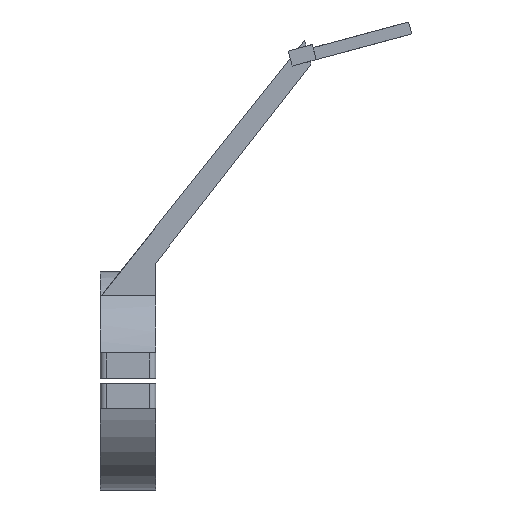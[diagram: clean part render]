
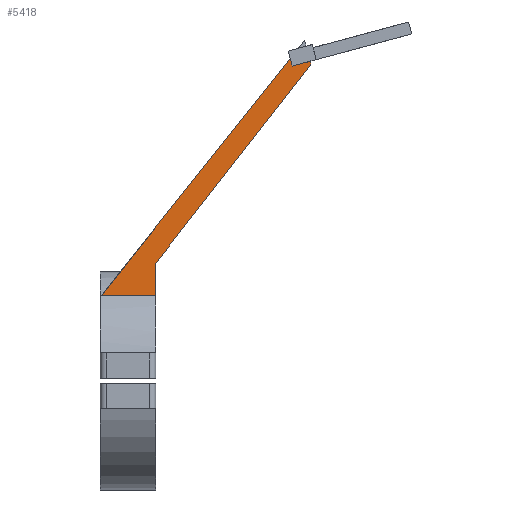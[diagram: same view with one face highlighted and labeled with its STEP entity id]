
A CAD part, front view. The second image highlights one B-rep face of the part: STEP entity #5418.
In plain terms, the highlighted planar face has unit normal (0, -1, 0).
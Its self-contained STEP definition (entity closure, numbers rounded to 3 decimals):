
#55 = CYLINDRICAL_SURFACE('',#56,35.3);
#56 = AXIS2_PLACEMENT_3D('',#57,#58,#59);
#57 = CARTESIAN_POINT('',(-35.,0.,0.));
#58 = DIRECTION('',(-1.,-0.,-0.));
#59 = DIRECTION('',(0.,1.,0.));
#329 = PLANE('',#330);
#330 = AXIS2_PLACEMENT_3D('',#331,#332,#333);
#331 = CARTESIAN_POINT('',(-17.,0.,0.)
  );
#332 = DIRECTION('',(1.,0.,0.));
#333 = DIRECTION('',(-0.,0.,1.));
#476 = VERTEX_POINT('',#477);
#477 = CARTESIAN_POINT('',(-34.518,-22.,27.606));
#495 = PLANE('',#496);
#496 = AXIS2_PLACEMENT_3D('',#497,#498,#499);
#497 = CARTESIAN_POINT('',(31.04,-18.,109.969));
#498 = DIRECTION('',(0.782,0.,-0.623));
#499 = DIRECTION('',(-0.623,0.,-0.782));
#507 = EDGE_CURVE('',#508,#476,#510,.T.);
#508 = VERTEX_POINT('',#509);
#509 = CARTESIAN_POINT('',(-17.,-22.,27.606));
#510 = SURFACE_CURVE('',#511,(#515,#521),.PCURVE_S1.);
#511 = LINE('',#512,#513);
#512 = CARTESIAN_POINT('',(-35.,-22.,27.606));
#513 = VECTOR('',#514,1.);
#514 = DIRECTION('',(-1.,-0.,-0.));
#515 = PCURVE('',#55,#516);
#516 = DEFINITIONAL_REPRESENTATION('',(#517),#520);
#517 = B_SPLINE_CURVE_WITH_KNOTS('',1,(#518,#519),.UNSPECIFIED.,.F.,.F.,
  (2,2),(-18.,0.),.PIECEWISE_BEZIER_KNOTS.);
#518 = CARTESIAN_POINT('',(-2.244,-18.));
#519 = CARTESIAN_POINT('',(-2.244,0.));
#520 = ( GEOMETRIC_REPRESENTATION_CONTEXT(2) 
PARAMETRIC_REPRESENTATION_CONTEXT() REPRESENTATION_CONTEXT('2D SPACE',''
  ) );
#521 = PCURVE('',#522,#527);
#522 = PLANE('',#523);
#523 = AXIS2_PLACEMENT_3D('',#524,#525,#526);
#524 = CARTESIAN_POINT('',(0.213,-22.,65.33));
#525 = DIRECTION('',(-0.,-1.,-0.));
#526 = DIRECTION('',(0.,0.,-1.));
#527 = DEFINITIONAL_REPRESENTATION('',(#528),#531);
#528 = B_SPLINE_CURVE_WITH_KNOTS('',1,(#529,#530),.UNSPECIFIED.,.F.,.F.,
  (2,2),(-18.,0.),.PIECEWISE_BEZIER_KNOTS.);
#529 = CARTESIAN_POINT('',(37.724,-17.213));
#530 = CARTESIAN_POINT('',(37.724,-35.213));
#531 = ( GEOMETRIC_REPRESENTATION_CONTEXT(2) 
PARAMETRIC_REPRESENTATION_CONTEXT() REPRESENTATION_CONTEXT('2D SPACE',''
  ) );
#1688 = PLANE('',#1689);
#1689 = AXIS2_PLACEMENT_3D('',#1690,#1691,#1692);
#1690 = CARTESIAN_POINT('',(46.375,0.,106.831));
#1691 = DIRECTION('',(0.259,0.,-0.966));
#1692 = DIRECTION('',(0.966,0.,0.259));
#1712 = PLANE('',#1713);
#1713 = AXIS2_PLACEMENT_3D('',#1714,#1715,#1716);
#1714 = CARTESIAN_POINT('',(26.021,-20.,105.519));
#1715 = DIRECTION('',(0.966,0.,0.259));
#1716 = DIRECTION('',(0.,1.,0.));
#2064 = VERTEX_POINT('',#2065);
#2065 = CARTESIAN_POINT('',(27.056,-22.,101.655));
#2086 = EDGE_CURVE('',#2087,#2064,#2089,.T.);
#2087 = VERTEX_POINT('',#2088);
#2088 = CARTESIAN_POINT('',(32.852,-22.,103.208));
#2089 = SURFACE_CURVE('',#2090,(#2094,#2100),.PCURVE_S1.);
#2090 = LINE('',#2091,#2092);
#2091 = CARTESIAN_POINT('',(19.652,-22.,99.671));
#2092 = VECTOR('',#2093,1.);
#2093 = DIRECTION('',(-0.966,0.,-0.259));
#2094 = PCURVE('',#1688,#2095);
#2095 = DEFINITIONAL_REPRESENTATION('',(#2096),#2099);
#2096 = B_SPLINE_CURVE_WITH_KNOTS('',1,(#2097,#2098),.UNSPECIFIED.,.F.,
  .F.,(2,2),(-13.933,-7.665),.PIECEWISE_BEZIER_KNOTS.);
#2097 = CARTESIAN_POINT('',(-13.732,22.));
#2098 = CARTESIAN_POINT('',(-20.,22.));
#2099 = ( GEOMETRIC_REPRESENTATION_CONTEXT(2) 
PARAMETRIC_REPRESENTATION_CONTEXT() REPRESENTATION_CONTEXT('2D SPACE',''
  ) );
#2100 = PCURVE('',#522,#2101);
#2101 = DEFINITIONAL_REPRESENTATION('',(#2102),#2105);
#2102 = B_SPLINE_CURVE_WITH_KNOTS('',1,(#2103,#2104),.UNSPECIFIED.,.F.,
  .F.,(2,2),(-13.933,-7.665),.PIECEWISE_BEZIER_KNOTS.);
#2103 = CARTESIAN_POINT('',(-37.947,32.897));
#2104 = CARTESIAN_POINT('',(-36.325,26.843));
#2105 = ( GEOMETRIC_REPRESENTATION_CONTEXT(2) 
PARAMETRIC_REPRESENTATION_CONTEXT() REPRESENTATION_CONTEXT('2D SPACE',''
  ) );
#2122 = PLANE('',#2123);
#2123 = AXIS2_PLACEMENT_3D('',#2124,#2125,#2126);
#2124 = CARTESIAN_POINT('',(33.11,-18.,102.242));
#2125 = DIRECTION('',(-0.966,-0.,-0.259));
#2126 = DIRECTION('',(-0.259,0.,0.966));
#5050 = VERTEX_POINT('',#5051);
#5051 = CARTESIAN_POINT('',(33.11,-22.,102.242));
#5065 = PLANE('',#5066);
#5066 = AXIS2_PLACEMENT_3D('',#5067,#5068,#5069);
#5067 = CARTESIAN_POINT('',(-17.,-18.,38.));
#5068 = DIRECTION('',(-0.788,0.,0.615));
#5069 = DIRECTION('',(0.615,0.,0.788));
#5077 = EDGE_CURVE('',#5050,#2087,#5078,.T.);
#5078 = SURFACE_CURVE('',#5079,(#5083,#5090),.PCURVE_S1.);
#5079 = LINE('',#5080,#5081);
#5080 = CARTESIAN_POINT('',(33.11,-22.,102.242));
#5081 = VECTOR('',#5082,1.);
#5082 = DIRECTION('',(-0.259,0.,0.966));
#5083 = PCURVE('',#2122,#5084);
#5084 = DEFINITIONAL_REPRESENTATION('',(#5085),#5089);
#5085 = LINE('',#5086,#5087);
#5086 = CARTESIAN_POINT('',(0.,-4.));
#5087 = VECTOR('',#5088,1.);
#5088 = DIRECTION('',(1.,0.));
#5089 = ( GEOMETRIC_REPRESENTATION_CONTEXT(2) 
PARAMETRIC_REPRESENTATION_CONTEXT() REPRESENTATION_CONTEXT('2D SPACE',''
  ) );
#5090 = PCURVE('',#522,#5091);
#5091 = DEFINITIONAL_REPRESENTATION('',(#5092),#5096);
#5092 = LINE('',#5093,#5094);
#5093 = CARTESIAN_POINT('',(-36.912,32.897));
#5094 = VECTOR('',#5095,1.);
#5095 = DIRECTION('',(-0.966,-0.259));
#5096 = ( GEOMETRIC_REPRESENTATION_CONTEXT(2) 
PARAMETRIC_REPRESENTATION_CONTEXT() REPRESENTATION_CONTEXT('2D SPACE',''
  ) );
#5105 = VERTEX_POINT('',#5106);
#5106 = CARTESIAN_POINT('',(-17.,-22.,38.));
#5127 = EDGE_CURVE('',#5105,#5050,#5128,.T.);
#5128 = SURFACE_CURVE('',#5129,(#5133,#5140),.PCURVE_S1.);
#5129 = LINE('',#5130,#5131);
#5130 = CARTESIAN_POINT('',(-17.,-22.,38.));
#5131 = VECTOR('',#5132,1.);
#5132 = DIRECTION('',(0.615,0.,0.788));
#5133 = PCURVE('',#5065,#5134);
#5134 = DEFINITIONAL_REPRESENTATION('',(#5135),#5139);
#5135 = LINE('',#5136,#5137);
#5136 = CARTESIAN_POINT('',(0.,-4.));
#5137 = VECTOR('',#5138,1.);
#5138 = DIRECTION('',(1.,0.));
#5139 = ( GEOMETRIC_REPRESENTATION_CONTEXT(2) 
PARAMETRIC_REPRESENTATION_CONTEXT() REPRESENTATION_CONTEXT('2D SPACE',''
  ) );
#5140 = PCURVE('',#522,#5141);
#5141 = DEFINITIONAL_REPRESENTATION('',(#5142),#5146);
#5142 = LINE('',#5143,#5144);
#5143 = CARTESIAN_POINT('',(27.33,-17.213));
#5144 = VECTOR('',#5145,1.);
#5145 = DIRECTION('',(-0.788,0.615));
#5146 = ( GEOMETRIC_REPRESENTATION_CONTEXT(2) 
PARAMETRIC_REPRESENTATION_CONTEXT() REPRESENTATION_CONTEXT('2D SPACE',''
  ) );
#5182 = EDGE_CURVE('',#5183,#2064,#5185,.T.);
#5183 = VERTEX_POINT('',#5184);
#5184 = CARTESIAN_POINT('',(26.393,-22.,104.131));
#5185 = SURFACE_CURVE('',#5186,(#5190,#5196),.PCURVE_S1.);
#5186 = LINE('',#5187,#5188);
#5187 = CARTESIAN_POINT('',(30.18,-22.,89.996));
#5188 = VECTOR('',#5189,1.);
#5189 = DIRECTION('',(0.259,0.,-0.966));
#5190 = PCURVE('',#1712,#5191);
#5191 = DEFINITIONAL_REPRESENTATION('',(#5192),#5195);
#5192 = B_SPLINE_CURVE_WITH_KNOTS('',1,(#5193,#5194),.UNSPECIFIED.,.F.,
  .F.,(2,2),(-17.07,-12.07),.PIECEWISE_BEZIER_KNOTS.);
#5193 = CARTESIAN_POINT('',(-2.,1.));
#5194 = CARTESIAN_POINT('',(-2.,-4.));
#5195 = ( GEOMETRIC_REPRESENTATION_CONTEXT(2) 
PARAMETRIC_REPRESENTATION_CONTEXT() REPRESENTATION_CONTEXT('2D SPACE',''
  ) );
#5196 = PCURVE('',#522,#5197);
#5197 = DEFINITIONAL_REPRESENTATION('',(#5198),#5201);
#5198 = B_SPLINE_CURVE_WITH_KNOTS('',1,(#5199,#5200),.UNSPECIFIED.,.F.,
  .F.,(2,2),(-17.07,-12.07),.PIECEWISE_BEZIER_KNOTS.);
#5199 = CARTESIAN_POINT('',(-41.155,25.549));
#5200 = CARTESIAN_POINT('',(-36.325,26.843));
#5201 = ( GEOMETRIC_REPRESENTATION_CONTEXT(2) 
PARAMETRIC_REPRESENTATION_CONTEXT() REPRESENTATION_CONTEXT('2D SPACE',''
  ) );
#5396 = EDGE_CURVE('',#5183,#476,#5397,.T.);
#5397 = SURFACE_CURVE('',#5398,(#5402,#5409),.PCURVE_S1.);
#5398 = LINE('',#5399,#5400);
#5399 = CARTESIAN_POINT('',(31.04,-22.,109.969));
#5400 = VECTOR('',#5401,1.);
#5401 = DIRECTION('',(-0.623,0.,-0.782));
#5402 = PCURVE('',#495,#5403);
#5403 = DEFINITIONAL_REPRESENTATION('',(#5404),#5408);
#5404 = LINE('',#5405,#5406);
#5405 = CARTESIAN_POINT('',(-0.,-4.));
#5406 = VECTOR('',#5407,1.);
#5407 = DIRECTION('',(1.,0.));
#5408 = ( GEOMETRIC_REPRESENTATION_CONTEXT(2) 
PARAMETRIC_REPRESENTATION_CONTEXT() REPRESENTATION_CONTEXT('2D SPACE',''
  ) );
#5409 = PCURVE('',#522,#5410);
#5410 = DEFINITIONAL_REPRESENTATION('',(#5411),#5415);
#5411 = LINE('',#5412,#5413);
#5412 = CARTESIAN_POINT('',(-44.639,30.826));
#5413 = VECTOR('',#5414,1.);
#5414 = DIRECTION('',(0.782,-0.623));
#5415 = ( GEOMETRIC_REPRESENTATION_CONTEXT(2) 
PARAMETRIC_REPRESENTATION_CONTEXT() REPRESENTATION_CONTEXT('2D SPACE',''
  ) );
#5418 = ADVANCED_FACE('',(#5419),#522,.T.);
#5419 = FACE_BOUND('',#5420,.T.);
#5420 = EDGE_LOOP('',(#5421,#5422,#5423,#5444,#5445,#5446,#5447));
#5421 = ORIENTED_EDGE('',*,*,#5396,.T.);
#5422 = ORIENTED_EDGE('',*,*,#507,.F.);
#5423 = ORIENTED_EDGE('',*,*,#5424,.T.);
#5424 = EDGE_CURVE('',#508,#5105,#5425,.T.);
#5425 = SURFACE_CURVE('',#5426,(#5430,#5437),.PCURVE_S1.);
#5426 = LINE('',#5427,#5428);
#5427 = CARTESIAN_POINT('',(-17.,-22.,27.));
#5428 = VECTOR('',#5429,1.);
#5429 = DIRECTION('',(0.,0.,1.));
#5430 = PCURVE('',#522,#5431);
#5431 = DEFINITIONAL_REPRESENTATION('',(#5432),#5436);
#5432 = LINE('',#5433,#5434);
#5433 = CARTESIAN_POINT('',(38.33,-17.213));
#5434 = VECTOR('',#5435,1.);
#5435 = DIRECTION('',(-1.,0.));
#5436 = ( GEOMETRIC_REPRESENTATION_CONTEXT(2) 
PARAMETRIC_REPRESENTATION_CONTEXT() REPRESENTATION_CONTEXT('2D SPACE',''
  ) );
#5437 = PCURVE('',#329,#5438);
#5438 = DEFINITIONAL_REPRESENTATION('',(#5439),#5443);
#5439 = LINE('',#5440,#5441);
#5440 = CARTESIAN_POINT('',(27.,22.));
#5441 = VECTOR('',#5442,1.);
#5442 = DIRECTION('',(1.,0.));
#5443 = ( GEOMETRIC_REPRESENTATION_CONTEXT(2) 
PARAMETRIC_REPRESENTATION_CONTEXT() REPRESENTATION_CONTEXT('2D SPACE',''
  ) );
#5444 = ORIENTED_EDGE('',*,*,#5127,.T.);
#5445 = ORIENTED_EDGE('',*,*,#5077,.T.);
#5446 = ORIENTED_EDGE('',*,*,#2086,.T.);
#5447 = ORIENTED_EDGE('',*,*,#5182,.F.);
